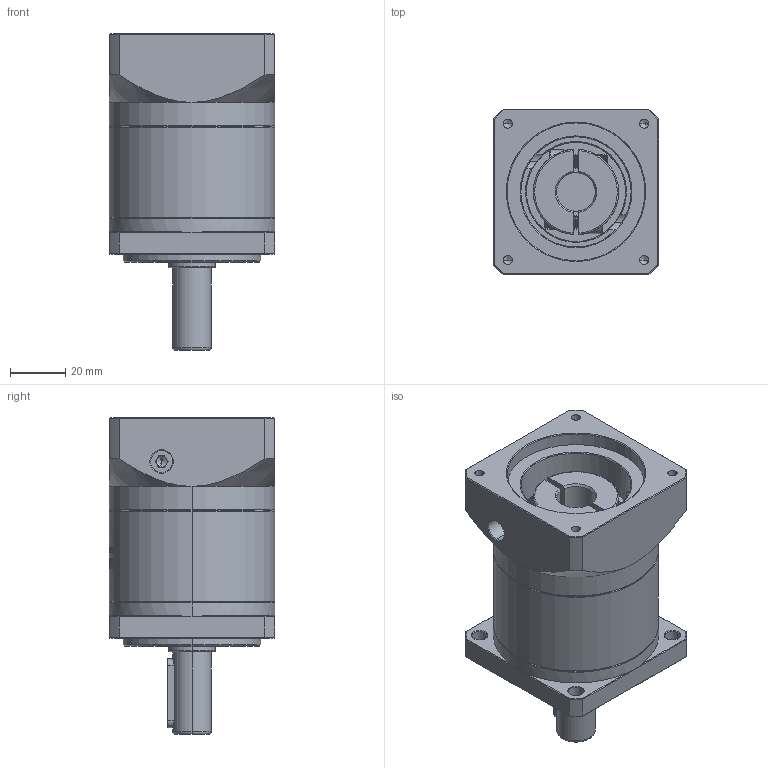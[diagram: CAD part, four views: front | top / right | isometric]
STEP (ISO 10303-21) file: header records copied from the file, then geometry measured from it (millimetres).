
FILE_DESCRIPTION (( 'STEP AP214' ), '1' );
FILE_NAME ('ZF60-D14-L1-14-50-70-M4.STEP', '2022-04-17T11:44:41', ( '' ), ( 'Microsoft' ), 'SwSTEP 2.0', 'SolidWorks 2016', '' );
FILE_SCHEMA (( 'AUTOMOTIVE_DESIGN' ));
Length unit declared in the file: millimetre
Products named in the file (1): ZF60-D14-L1-14-50-70-M4
Bounding box: 60 x 60 x 115 mm (x, y, z)
Volume: 221027.8 mm3; surface area: 43387.2 mm2
Topology: 6 solids, 6 shells, 1516 faces, 4075 edges, 2635 vertices
Faces by surface type: plane 736, bspline 287, cylinder 239, cone 234, torus 20
Entity records: 79564 total; most frequent: CARTESIAN_POINT 27904, ORIENTED_EDGE 8122, DIRECTION 6143, EDGE_CURVE 4061, VERTEX_POINT 2635, LINE 2123, VECTOR 2123, AXIS2_PLACEMENT_3D 2010
